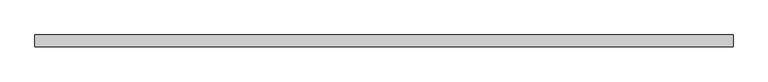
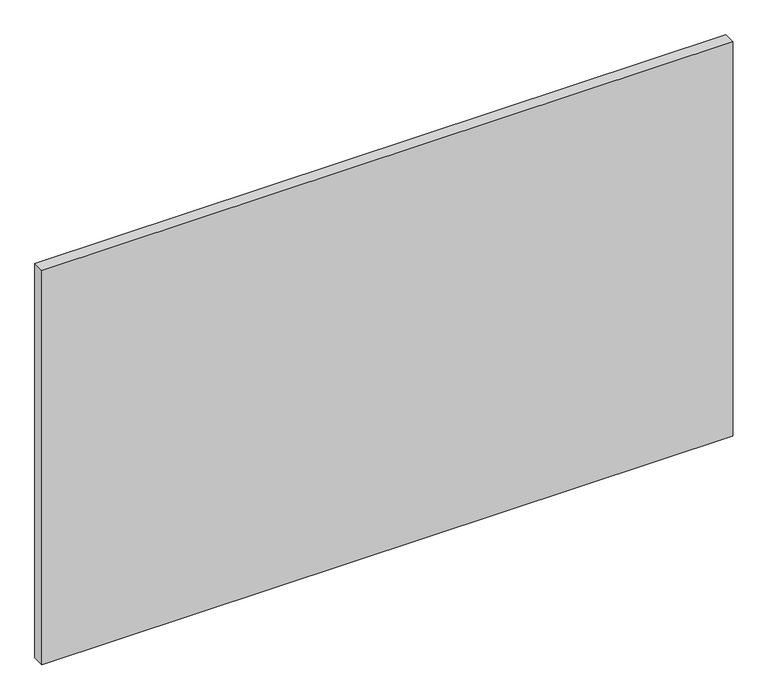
"""IFC4 building model written with IfcOpenShell, lengths in millimetres: plate geometry, Системная панель : С остеклением."""

from ifc_helpers import new_model, si_unit, origin, origin_with_axes, place, context, project, spatial, polyline, outline, extrude, source, transform, mapped, element, save


def plate_00b22209(model_context):
    return source(origin(), model_context, "Body", "SweptSolid", [
        extrude(outline(polyline([(725.0, -49.5), (-725.0, -49.5), (-725.0, -24.5), (725.0, -24.5), (725.0, -49.5)])), origin_with_axes(), (0.0, 0.0, 1.0), 875.0),
    ])


if __name__ == "__main__":
    model = new_model("IFC4")
    model_context = context("Model", 3, world=origin())
    ifc_project = project(units=[si_unit("LENGTHUNIT", "METRE", prefix="MILLI")], contexts=[model_context])
    site = spatial("IfcSite", under=ifc_project)
    building = spatial("IfcBuilding", under=site)
    placement = place(None, origin())
    plate_shape = plate_00b22209(model_context)
    element("IfcPlate", 1, ObjectType="Системная панель : С остеклением", at=placement, inside=building, context=model_context, shape_type="MappedRepresentation", body=[
        mapped(plate_shape, transform((0.0, 0.0, 0.0), x_axis=(1.0, 0.0, 0.0), y_axis=(0.0, 1.0, 0.0), z_axis=(0.0, 0.0, 1.0))),
    ])
    save(model, "model.ifc")
